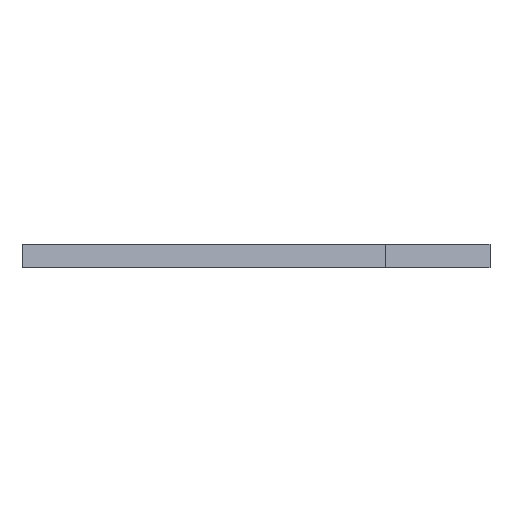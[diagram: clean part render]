
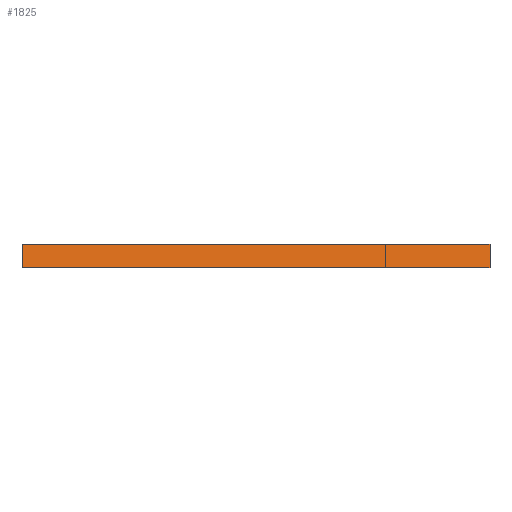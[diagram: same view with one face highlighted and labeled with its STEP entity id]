
A CAD part, left-side view. The second image highlights one B-rep face of the part: STEP entity #1825.
In plain terms, the highlighted planar face has unit normal (-0.924, -0.383, 0).
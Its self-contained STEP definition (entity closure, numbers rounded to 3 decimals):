
#883=ORIENTED_EDGE('',*,*,#1076,.T.);
#884=ORIENTED_EDGE('',*,*,#1078,.T.);
#885=ORIENTED_EDGE('',*,*,#1040,.T.);
#886=ORIENTED_EDGE('',*,*,#1044,.T.);
#950=VECTOR('',#1356,1.);
#954=VECTOR('',#1362,1.);
#957=VECTOR('',#1425,1.);
#959=VECTOR('',#1429,1.);
#962=LINE('',#1556,#950);
#966=LINE('',#1564,#954);
#969=LINE('',#1628,#957);
#971=LINE('',#1631,#959);
#974=VERTEX_POINT('',#1553);
#975=VERTEX_POINT('',#1555);
#978=VERTEX_POINT('',#1562);
#1009=VERTEX_POINT('',#1626);
#1040=EDGE_CURVE('',#975,#974,#962,.T.);
#1044=EDGE_CURVE('',#974,#978,#966,.T.);
#1076=EDGE_CURVE('',#978,#1009,#969,.T.);
#1078=EDGE_CURVE('',#1009,#975,#971,.T.);
#1171=EDGE_LOOP('',(#883,#884,#885,#886));
#1293=FACE_BOUND('',#1171,.T.);
#1356=DIRECTION('',(0.,0.,10.));
#1362=DIRECTION('',(-82.843,200.,0.));
#1425=DIRECTION('',(0.,0.,-10.));
#1429=DIRECTION('',(82.843,-200.,0.));
#1489=DIRECTION('',(-0.924,-0.383,0.));
#1490=DIRECTION('',(-0.383,0.924,0.));
#1553=CARTESIAN_POINT('',(82.843,-200.,10.));
#1555=CARTESIAN_POINT('',(82.843,-200.,0.));
#1556=CARTESIAN_POINT('',(82.843,-200.,0.));
#1562=CARTESIAN_POINT('',(0.,0.,10.));
#1564=CARTESIAN_POINT('',(82.843,-200.,10.));
#1626=CARTESIAN_POINT('',(0.,0.,0.));
#1628=CARTESIAN_POINT('',(0.,0.,10.));
#1631=CARTESIAN_POINT('',(0.,0.,0.));
#1691=CARTESIAN_POINT('',(6.306,-15.224,10.));
#1784=AXIS2_PLACEMENT_3D('',#1691,#1489,#1490);
#1819=PLANE('',#1784);
#1825=ADVANCED_FACE('',(#1293),#1819,.T.);
